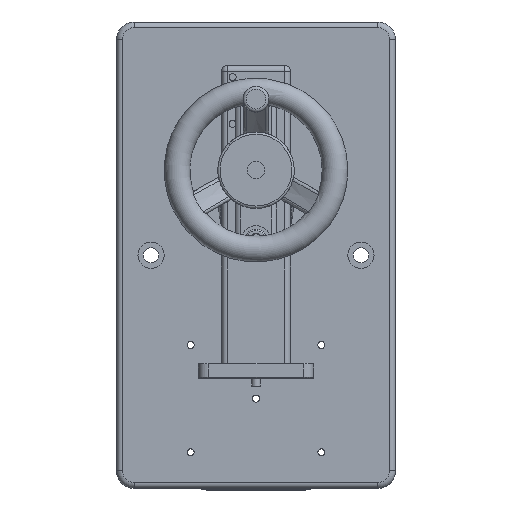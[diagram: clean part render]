
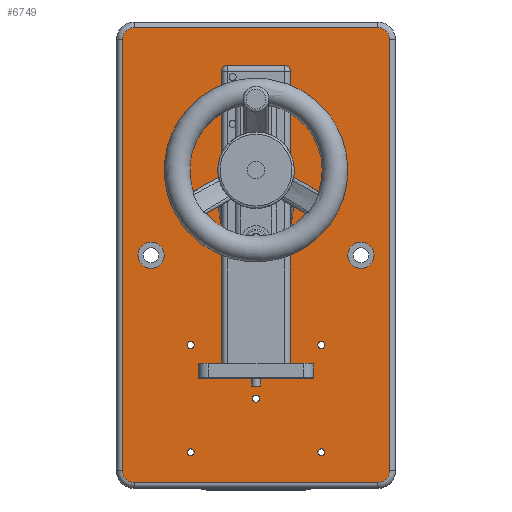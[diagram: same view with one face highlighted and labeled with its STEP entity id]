
A CAD part, top view. The second image highlights one B-rep face of the part: STEP entity #6749.
In plain terms, the highlighted planar face has unit normal (0, 0, 1).
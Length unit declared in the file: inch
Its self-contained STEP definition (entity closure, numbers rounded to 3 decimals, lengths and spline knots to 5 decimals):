
#4237=CARTESIAN_POINT('',(46.7787,34.15678,7.249));
#4238=VERTEX_POINT('',#4237);
#4239=CARTESIAN_POINT('',(46.7787,34.51203,7.249));
#4240=DIRECTION('',(0.,0.,-1.0));
#4241=DIRECTION('',(0.,-1.0,0.));
#4242=AXIS2_PLACEMENT_3D('',#4239,#4240,#4241);
#4243=CIRCLE('',#4242,0.35525);
#4244=EDGE_CURVE('',#4238,#4238,#4243,.T.);
#4342=CARTESIAN_POINT('',(46.7787,37.15678,7.249));
#4343=VERTEX_POINT('',#4342);
#4344=CARTESIAN_POINT('',(46.7787,37.51203,7.249));
#4345=DIRECTION('',(0.,0.,-1.0));
#4346=DIRECTION('',(0.,-1.0,0.));
#4347=AXIS2_PLACEMENT_3D('',#4344,#4345,#4346);
#4348=CIRCLE('',#4347,0.35525);
#4349=EDGE_CURVE('',#4343,#4343,#4348,.T.);
#5343=CARTESIAN_POINT('',(43.9137,38.83703,7.249));
#5344=VERTEX_POINT('',#5343);
#5352=CARTESIAN_POINT('',(44.1637,39.08703,7.249));
#5353=VERTEX_POINT('',#5352);
#5354=CARTESIAN_POINT('',(44.1637,38.83703,7.249));
#5355=DIRECTION('',(0.,0.,-1.));
#5356=DIRECTION('',(-0.707,0.707,0.));
#5357=AXIS2_PLACEMENT_3D('',#5354,#5355,#5356);
#5358=CIRCLE('',#5357,0.25);
#5359=EDGE_CURVE('',#5344,#5353,#5358,.T.);
#5387=CARTESIAN_POINT('',(43.9137,29.58703,7.249));
#5388=VERTEX_POINT('',#5387);
#5396=CARTESIAN_POINT('',(43.9137,29.58703,7.249));
#5397=DIRECTION('',(0.0,1.0,0.0));
#5398=VECTOR('',#5397,9.25);
#5399=LINE('',#5396,#5398);
#5400=EDGE_CURVE('',#5388,#5344,#5399,.T.);
#5417=CARTESIAN_POINT('',(49.3937,39.08703,7.249));
#5418=VERTEX_POINT('',#5417);
#5435=CARTESIAN_POINT('',(44.1637,39.08703,7.249));
#5436=DIRECTION('',(1.0,0.0,0.0));
#5437=VECTOR('',#5436,5.23);
#5438=LINE('',#5435,#5437);
#5439=EDGE_CURVE('',#5353,#5418,#5438,.T.);
#5451=CARTESIAN_POINT('',(44.1637,29.33703,7.249));
#5452=VERTEX_POINT('',#5451);
#5460=CARTESIAN_POINT('',(44.1637,29.58703,7.249));
#5461=DIRECTION('',(0.0,0.0,-1.0));
#5462=DIRECTION('',(-0.707,-0.707,0.0));
#5463=AXIS2_PLACEMENT_3D('',#5460,#5461,#5462);
#5464=CIRCLE('',#5463,0.25);
#5465=EDGE_CURVE('',#5452,#5388,#5464,.T.);
#5483=CARTESIAN_POINT('',(49.6437,38.83703,7.249));
#5484=VERTEX_POINT('',#5483);
#5502=CARTESIAN_POINT('',(49.3937,38.83703,7.249));
#5503=DIRECTION('',(0.0,0.0,-1.0));
#5504=DIRECTION('',(0.707,0.707,0.0));
#5505=AXIS2_PLACEMENT_3D('',#5502,#5503,#5504);
#5506=CIRCLE('',#5505,0.25);
#5507=EDGE_CURVE('',#5418,#5484,#5506,.T.);
#5519=CARTESIAN_POINT('',(49.3937,29.33703,7.249));
#5520=VERTEX_POINT('',#5519);
#5528=CARTESIAN_POINT('',(49.3937,29.33703,7.249));
#5529=DIRECTION('',(-1.0,0.0,0.0));
#5530=VECTOR('',#5529,5.23);
#5531=LINE('',#5528,#5530);
#5532=EDGE_CURVE('',#5520,#5452,#5531,.T.);
#5549=CARTESIAN_POINT('',(49.6437,29.58703,7.249));
#5550=VERTEX_POINT('',#5549);
#5567=CARTESIAN_POINT('',(49.6437,38.83703,7.249));
#5568=DIRECTION('',(0.0,-1.0,0.0));
#5569=VECTOR('',#5568,9.25);
#5570=LINE('',#5567,#5569);
#5571=EDGE_CURVE('',#5484,#5550,#5570,.T.);
#5590=CARTESIAN_POINT('',(49.3937,29.58703,7.249));
#5591=DIRECTION('',(0.,0.,-1.0));
#5592=DIRECTION('',(0.707,-0.707,0.));
#5593=AXIS2_PLACEMENT_3D('',#5590,#5591,#5592);
#5594=CIRCLE('',#5593,0.25);
#5595=EDGE_CURVE('',#5550,#5520,#5594,.T.);
#6292=CARTESIAN_POINT('',(45.8412,37.22203,7.249));
#6293=VERTEX_POINT('',#6292);
#6294=CARTESIAN_POINT('',(45.8412,37.38703,7.249));
#6295=DIRECTION('',(0.0,0.0,-1.0));
#6296=DIRECTION('',(0.0,-1.0,0.0));
#6297=AXIS2_PLACEMENT_3D('',#6294,#6295,#6296);
#6298=CIRCLE('',#6297,0.165);
#6299=EDGE_CURVE('',#6293,#6293,#6298,.T.);
#6312=CARTESIAN_POINT('',(45.8412,34.47203,7.249));
#6313=VERTEX_POINT('',#6312);
#6314=CARTESIAN_POINT('',(45.8412,34.63703,7.249));
#6315=DIRECTION('',(0.0,0.0,-1.0));
#6316=DIRECTION('',(0.0,-1.0,0.0));
#6317=AXIS2_PLACEMENT_3D('',#6314,#6315,#6316);
#6318=CIRCLE('',#6317,0.165);
#6319=EDGE_CURVE('',#6313,#6313,#6318,.T.);
#6332=CARTESIAN_POINT('',(47.7162,34.47203,7.249));
#6333=VERTEX_POINT('',#6332);
#6334=CARTESIAN_POINT('',(47.7162,34.63703,7.249));
#6335=DIRECTION('',(0.0,0.0,-1.0));
#6336=DIRECTION('',(0.0,-1.0,0.0));
#6337=AXIS2_PLACEMENT_3D('',#6334,#6335,#6336);
#6338=CIRCLE('',#6337,0.165);
#6339=EDGE_CURVE('',#6333,#6333,#6338,.T.);
#6352=CARTESIAN_POINT('',(47.7162,37.22203,7.249));
#6353=VERTEX_POINT('',#6352);
#6354=CARTESIAN_POINT('',(47.7162,37.38703,7.249));
#6355=DIRECTION('',(0.0,0.0,-1.0));
#6356=DIRECTION('',(0.0,-1.0,0.0));
#6357=AXIS2_PLACEMENT_3D('',#6354,#6355,#6356);
#6358=CIRCLE('',#6357,0.165);
#6359=EDGE_CURVE('',#6353,#6353,#6358,.T.);
#6400=CARTESIAN_POINT('',(49.0287,33.93103,7.249));
#6401=VERTEX_POINT('',#6400);
#6402=CARTESIAN_POINT('',(49.0287,34.21203,7.249));
#6403=DIRECTION('',(0.0,0.0,-1.0));
#6404=DIRECTION('',(0.0,-1.0,0.0));
#6405=AXIS2_PLACEMENT_3D('',#6402,#6403,#6404);
#6406=CIRCLE('',#6405,0.281);
#6407=EDGE_CURVE('',#6401,#6401,#6406,.T.);
#6460=CARTESIAN_POINT('',(44.5287,33.93103,7.249));
#6461=VERTEX_POINT('',#6460);
#6462=CARTESIAN_POINT('',(44.5287,34.21203,7.249));
#6463=DIRECTION('',(0.0,0.0,-1.0));
#6464=DIRECTION('',(0.0,-1.0,0.0));
#6465=AXIS2_PLACEMENT_3D('',#6462,#6463,#6464);
#6466=CIRCLE('',#6465,0.281);
#6467=EDGE_CURVE('',#6461,#6461,#6466,.T.);
#6489=CARTESIAN_POINT('',(48.1787,30.06203,7.249));
#6490=VERTEX_POINT('',#6489);
#6491=CARTESIAN_POINT('',(48.1787,29.98703,7.249));
#6492=DIRECTION('',(0.0,0.0,-1.0));
#6493=DIRECTION('',(0.0,-1.0,0.0));
#6494=AXIS2_PLACEMENT_3D('',#6491,#6492,#6493);
#6495=CIRCLE('',#6494,0.075);
#6496=EDGE_CURVE('',#6490,#6490,#6495,.T.);
#6509=CARTESIAN_POINT('',(45.3787,30.06203,7.249));
#6510=VERTEX_POINT('',#6509);
#6511=CARTESIAN_POINT('',(45.3787,29.98703,7.249));
#6512=DIRECTION('',(0.0,0.0,-1.0));
#6513=DIRECTION('',(0.0,-1.0,0.0));
#6514=AXIS2_PLACEMENT_3D('',#6511,#6512,#6513);
#6515=CIRCLE('',#6514,0.075);
#6516=EDGE_CURVE('',#6510,#6510,#6515,.T.);
#6529=CARTESIAN_POINT('',(46.7787,31.21203,7.249));
#6530=VERTEX_POINT('',#6529);
#6531=CARTESIAN_POINT('',(46.7787,31.13703,7.249));
#6532=DIRECTION('',(0.0,0.0,-1.0));
#6533=DIRECTION('',(0.0,-1.0,0.0));
#6534=AXIS2_PLACEMENT_3D('',#6531,#6532,#6533);
#6535=CIRCLE('',#6534,0.075);
#6536=EDGE_CURVE('',#6530,#6530,#6535,.T.);
#6549=CARTESIAN_POINT('',(45.3787,32.36203,7.249));
#6550=VERTEX_POINT('',#6549);
#6551=CARTESIAN_POINT('',(45.3787,32.28703,7.249));
#6552=DIRECTION('',(0.0,0.0,-1.0));
#6553=DIRECTION('',(0.0,-1.0,0.0));
#6554=AXIS2_PLACEMENT_3D('',#6551,#6552,#6553);
#6555=CIRCLE('',#6554,0.075);
#6556=EDGE_CURVE('',#6550,#6550,#6555,.T.);
#6569=CARTESIAN_POINT('',(48.1787,32.36203,7.249));
#6570=VERTEX_POINT('',#6569);
#6571=CARTESIAN_POINT('',(48.1787,32.28703,7.249));
#6572=DIRECTION('',(0.0,0.0,-1.0));
#6573=DIRECTION('',(0.0,-1.0,0.0));
#6574=AXIS2_PLACEMENT_3D('',#6571,#6572,#6573);
#6575=CIRCLE('',#6574,0.075);
#6576=EDGE_CURVE('',#6570,#6570,#6575,.T.);
#6680=CARTESIAN_POINT('',(46.9662,36.01203,7.249));
#6681=VERTEX_POINT('',#6680);
#6682=CARTESIAN_POINT('',(46.7787,36.01203,7.249));
#6683=DIRECTION('',(0.0,0.0,-1.0));
#6684=DIRECTION('',(1.0,0.0,0.0));
#6685=AXIS2_PLACEMENT_3D('',#6682,#6683,#6684);
#6686=CIRCLE('',#6685,0.1875);
#6687=EDGE_CURVE('',#6681,#6681,#6686,.T.);
#6692=CARTESIAN_POINT('',(46.7787,36.01203,7.249));
#6693=DIRECTION('',(0.0,0.0,1.0));
#6694=DIRECTION('',(0.0,1.0,0.0));
#6695=AXIS2_PLACEMENT_3D('',#6692,#6693,#6694);
#6696=PLANE('',#6695);
#6697=ORIENTED_EDGE('',*,*,#5359,.F.);
#6698=ORIENTED_EDGE('',*,*,#5400,.F.);
#6699=ORIENTED_EDGE('',*,*,#5465,.F.);
#6700=ORIENTED_EDGE('',*,*,#5532,.F.);
#6701=ORIENTED_EDGE('',*,*,#5595,.F.);
#6702=ORIENTED_EDGE('',*,*,#5571,.F.);
#6703=ORIENTED_EDGE('',*,*,#5507,.F.);
#6704=ORIENTED_EDGE('',*,*,#5439,.F.);
#6705=EDGE_LOOP('',(#6697,#6698,#6699,#6700,#6701,#6702,#6703,#6704));
#6706=FACE_OUTER_BOUND('',#6705,.T.);
#6707=ORIENTED_EDGE('',*,*,#4244,.T.);
#6708=EDGE_LOOP('',(#6707));
#6709=FACE_BOUND('',#6708,.T.);
#6710=ORIENTED_EDGE('',*,*,#4349,.T.);
#6711=EDGE_LOOP('',(#6710));
#6712=FACE_BOUND('',#6711,.T.);
#6713=ORIENTED_EDGE('',*,*,#6299,.T.);
#6714=EDGE_LOOP('',(#6713));
#6715=FACE_BOUND('',#6714,.T.);
#6716=ORIENTED_EDGE('',*,*,#6319,.T.);
#6717=EDGE_LOOP('',(#6716));
#6718=FACE_BOUND('',#6717,.T.);
#6719=ORIENTED_EDGE('',*,*,#6339,.T.);
#6720=EDGE_LOOP('',(#6719));
#6721=FACE_BOUND('',#6720,.T.);
#6722=ORIENTED_EDGE('',*,*,#6359,.T.);
#6723=EDGE_LOOP('',(#6722));
#6724=FACE_BOUND('',#6723,.T.);
#6725=ORIENTED_EDGE('',*,*,#6407,.T.);
#6726=EDGE_LOOP('',(#6725));
#6727=FACE_BOUND('',#6726,.T.);
#6728=ORIENTED_EDGE('',*,*,#6467,.T.);
#6729=EDGE_LOOP('',(#6728));
#6730=FACE_BOUND('',#6729,.T.);
#6731=ORIENTED_EDGE('',*,*,#6496,.T.);
#6732=EDGE_LOOP('',(#6731));
#6733=FACE_BOUND('',#6732,.T.);
#6734=ORIENTED_EDGE('',*,*,#6516,.T.);
#6735=EDGE_LOOP('',(#6734));
#6736=FACE_BOUND('',#6735,.T.);
#6737=ORIENTED_EDGE('',*,*,#6536,.T.);
#6738=EDGE_LOOP('',(#6737));
#6739=FACE_BOUND('',#6738,.T.);
#6740=ORIENTED_EDGE('',*,*,#6556,.T.);
#6741=EDGE_LOOP('',(#6740));
#6742=FACE_BOUND('',#6741,.T.);
#6743=ORIENTED_EDGE('',*,*,#6576,.T.);
#6744=EDGE_LOOP('',(#6743));
#6745=FACE_BOUND('',#6744,.T.);
#6746=ORIENTED_EDGE('',*,*,#6687,.T.);
#6747=EDGE_LOOP('',(#6746));
#6748=FACE_BOUND('',#6747,.T.);
#6749=ADVANCED_FACE('',(#6706,#6709,#6712,#6715,#6718,#6721,#6724,#6727,#6730,#6733,#6736,#6739,#6742,#6745,#6748),#6696,.T.);
